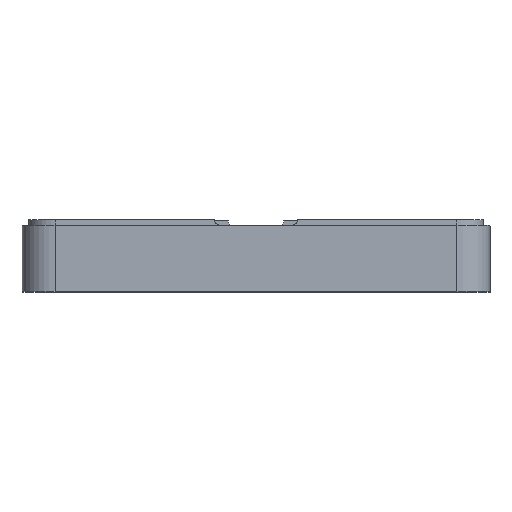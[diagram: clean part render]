
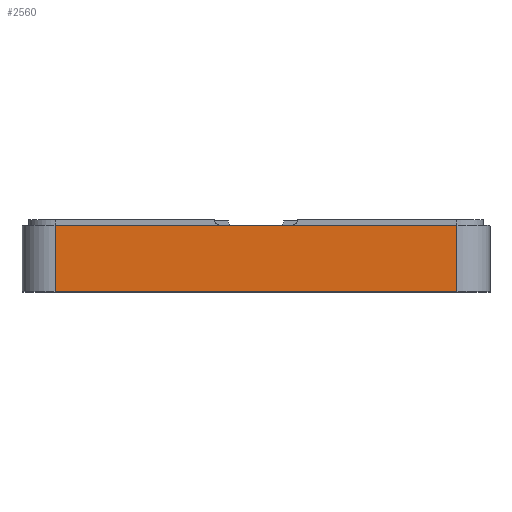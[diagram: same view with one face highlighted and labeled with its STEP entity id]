
A CAD part, top view. The second image highlights one B-rep face of the part: STEP entity #2560.
In plain terms, the highlighted planar face has unit normal (0, 0, 1).
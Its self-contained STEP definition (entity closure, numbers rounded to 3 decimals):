
#162=PLANE('',#2778);
#242=FACE_OUTER_BOUND('',#389,.T.);
#389=EDGE_LOOP('',(#2033,#2034,#2035,#2036));
#556=LINE('',#4346,#790);
#584=LINE('',#4430,#818);
#594=LINE('',#4456,#828);
#610=LINE('',#4515,#844);
#790=VECTOR('',#3024,10.);
#818=VECTOR('',#3110,10.);
#828=VECTOR('',#3138,10.);
#844=VECTOR('',#3208,10.);
#1175=VERTEX_POINT('',#4343);
#1176=VERTEX_POINT('',#4345);
#1203=VERTEX_POINT('',#4428);
#1210=VERTEX_POINT('',#4455);
#1444=EDGE_CURVE('',#1176,#1175,#556,.T.);
#1487=EDGE_CURVE('',#1203,#1175,#584,.T.);
#1500=EDGE_CURVE('',#1176,#1210,#594,.T.);
#1530=EDGE_CURVE('',#1210,#1203,#610,.F.);
#2033=ORIENTED_EDGE('',*,*,#1444,.T.);
#2034=ORIENTED_EDGE('',*,*,#1487,.F.);
#2035=ORIENTED_EDGE('',*,*,#1530,.F.);
#2036=ORIENTED_EDGE('',*,*,#1500,.F.);
#2560=ADVANCED_FACE('',(#242),#162,.T.);
#2778=AXIS2_PLACEMENT_3D('',#4514,#3206,#3207);
#3024=DIRECTION('',(-1.,0.,0.));
#3110=DIRECTION('',(0.,1.,0.));
#3138=DIRECTION('',(0.,-1.,0.));
#3206=DIRECTION('center_axis',(0.,0.,1.));
#3207=DIRECTION('ref_axis',(-1.,0.,0.));
#3208=DIRECTION('',(1.,0.,0.));
#4343=CARTESIAN_POINT('',(-79.553,4.414,68.185));
#4345=CARTESIAN_POINT('',(-6.753,4.414,68.185));
#4346=CARTESIAN_POINT('',(-34.003,4.414,68.185));
#4428=CARTESIAN_POINT('',(-79.553,-7.586,68.185));
#4430=CARTESIAN_POINT('',(-79.553,-5.586,68.185));
#4455=CARTESIAN_POINT('',(-6.753,-7.586,68.185));
#4456=CARTESIAN_POINT('',(-6.753,-5.586,68.185));
#4514=CARTESIAN_POINT('Origin',(-1.153,-5.586,68.185));
#4515=CARTESIAN_POINT('',(-22.153,-7.586,68.185));
